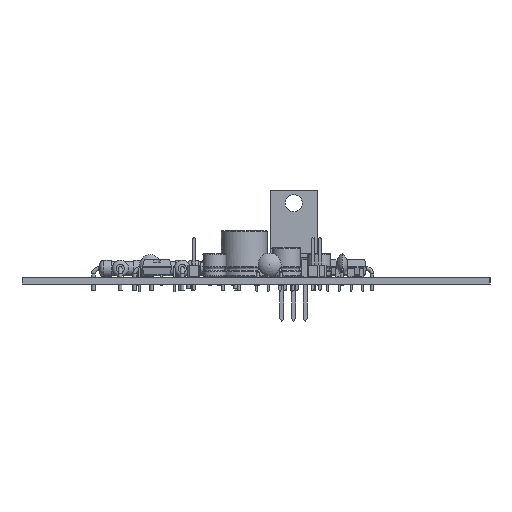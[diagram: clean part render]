
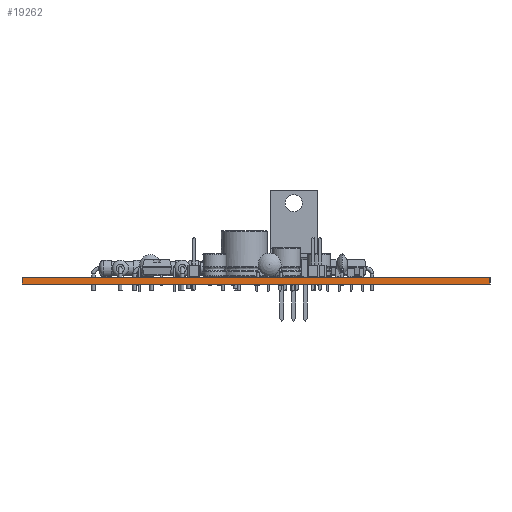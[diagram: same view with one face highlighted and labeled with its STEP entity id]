
A CAD part, left-side view. The second image highlights one B-rep face of the part: STEP entity #19262.
In plain terms, the highlighted planar face has unit normal (-1, 0, 0).
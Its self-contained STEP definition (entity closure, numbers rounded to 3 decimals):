
#19206 = VERTEX_POINT('',#19207);
#19207 = CARTESIAN_POINT('',(66.6,-144.5,1.51));
#19213 = EDGE_CURVE('',#19214,#19206,#19216,.T.);
#19214 = VERTEX_POINT('',#19215);
#19215 = CARTESIAN_POINT('',(66.6,-144.5,0.));
#19216 = LINE('',#19217,#19218);
#19217 = CARTESIAN_POINT('',(66.6,-144.5,0.));
#19218 = VECTOR('',#19219,1.);
#19219 = DIRECTION('',(0.,0.,1.));
#19262 = ADVANCED_FACE('',(#19263),#19288,.T.);
#19263 = FACE_BOUND('',#19264,.T.);
#19264 = EDGE_LOOP('',(#19265,#19266,#19274,#19282));
#19265 = ORIENTED_EDGE('',*,*,#19213,.T.);
#19266 = ORIENTED_EDGE('',*,*,#19267,.T.);
#19267 = EDGE_CURVE('',#19206,#19268,#19270,.T.);
#19268 = VERTEX_POINT('',#19269);
#19269 = CARTESIAN_POINT('',(66.6,-42.679,1.51));
#19270 = LINE('',#19271,#19272);
#19271 = CARTESIAN_POINT('',(66.6,-144.5,1.51));
#19272 = VECTOR('',#19273,1.);
#19273 = DIRECTION('',(0.,1.,0.));
#19274 = ORIENTED_EDGE('',*,*,#19275,.F.);
#19275 = EDGE_CURVE('',#19276,#19268,#19278,.T.);
#19276 = VERTEX_POINT('',#19277);
#19277 = CARTESIAN_POINT('',(66.6,-42.679,0.));
#19278 = LINE('',#19279,#19280);
#19279 = CARTESIAN_POINT('',(66.6,-42.679,0.));
#19280 = VECTOR('',#19281,1.);
#19281 = DIRECTION('',(0.,0.,1.));
#19282 = ORIENTED_EDGE('',*,*,#19283,.F.);
#19283 = EDGE_CURVE('',#19214,#19276,#19284,.T.);
#19284 = LINE('',#19285,#19286);
#19285 = CARTESIAN_POINT('',(66.6,-144.5,0.));
#19286 = VECTOR('',#19287,1.);
#19287 = DIRECTION('',(0.,1.,0.));
#19288 = PLANE('',#19289);
#19289 = AXIS2_PLACEMENT_3D('',#19290,#19291,#19292);
#19290 = CARTESIAN_POINT('',(66.6,-144.5,0.));
#19291 = DIRECTION('',(-1.,0.,0.));
#19292 = DIRECTION('',(0.,1.,0.));
